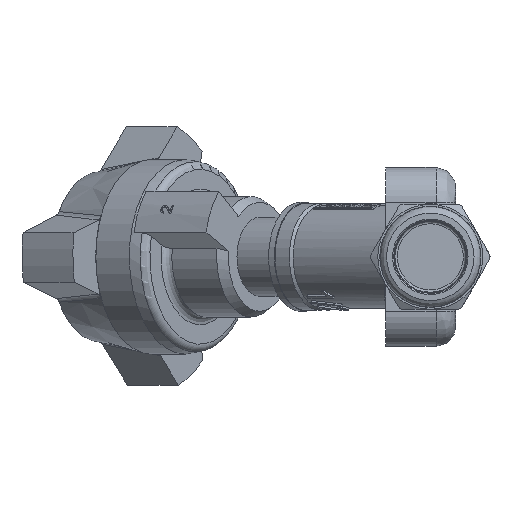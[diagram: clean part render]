
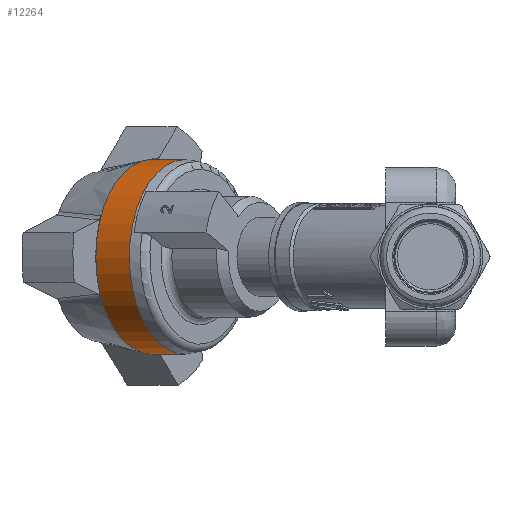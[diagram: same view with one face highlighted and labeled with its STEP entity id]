
A CAD part, left-side view. The second image highlights one B-rep face of the part: STEP entity #12264.
In plain terms, the highlighted cylindrical face has radius 25 mm (diameter 50 mm), a full revolution.
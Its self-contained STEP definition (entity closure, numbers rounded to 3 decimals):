
#12163=CARTESIAN_POINT('',(0.618,62.948,-24.999));
#12164=VERTEX_POINT('',#12163);
#12165=CARTESIAN_POINT('',(0.456,63.061,0.));
#12166=DIRECTION('',(0.574,0.819,0.));
#12167=DIRECTION('',(0.006,-0.005,-1.));
#12168=AXIS2_PLACEMENT_3D('',#12165,#12166,#12167);
#12169=CIRCLE('',#12168,25.);
#12170=EDGE_CURVE('',#12164,#12164,#12169,.T.);
#12245=CARTESIAN_POINT('',(4.184,68.385,0.));
#12246=DIRECTION('',(0.574,0.819,0.));
#12247=DIRECTION('',(0.006,-0.005,-1.));
#12248=AXIS2_PLACEMENT_3D('',#12245,#12246,#12247);
#12249=CYLINDRICAL_SURFACE('',#12248,25.);
#12250=ORIENTED_EDGE('',*,*,#12170,.T.);
#12251=EDGE_LOOP('',(#12250));
#12252=FACE_OUTER_BOUND('',#12251,.T.);
#12253=CARTESIAN_POINT('',(6.64,71.549,-24.999));
#12254=VERTEX_POINT('',#12253);
#12255=CARTESIAN_POINT('',(6.478,71.662,0.));
#12256=DIRECTION('',(0.574,0.819,0.));
#12257=DIRECTION('',(0.006,-0.005,-1.));
#12258=AXIS2_PLACEMENT_3D('',#12255,#12256,#12257);
#12259=CIRCLE('',#12258,25.);
#12260=EDGE_CURVE('',#12254,#12254,#12259,.T.);
#12261=ORIENTED_EDGE('',*,*,#12260,.F.);
#12262=EDGE_LOOP('',(#12261));
#12263=FACE_BOUND('',#12262,.T.);
#12264=ADVANCED_FACE('',(#12252,#12263),#12249,.T.);
